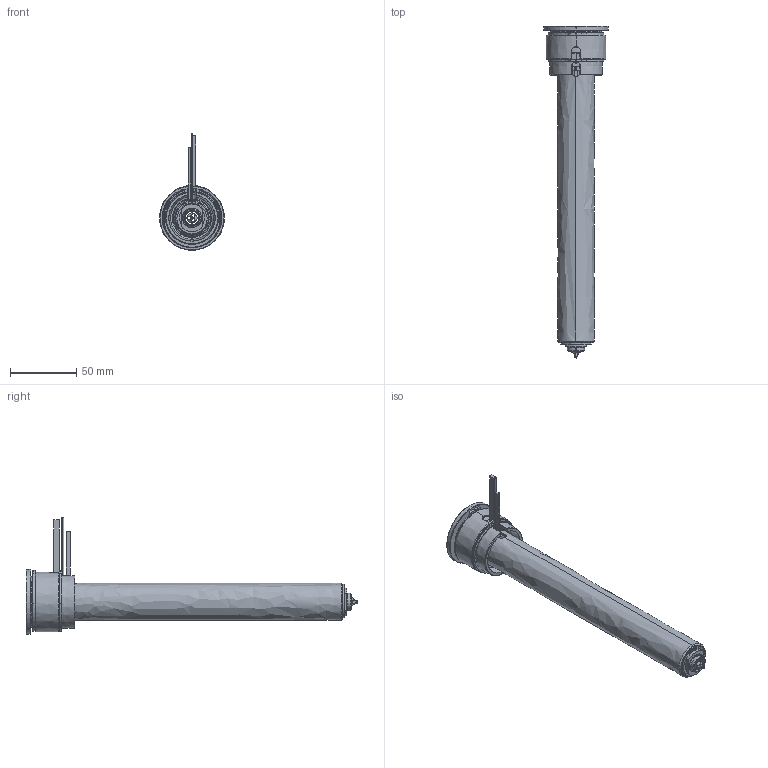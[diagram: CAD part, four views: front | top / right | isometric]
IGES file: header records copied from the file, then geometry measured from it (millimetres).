
Start section: SolidWorks IGES file using analytic representation for surfaces
Global section: file name: C:\Documents and Settings\ws-20\Desktop\TEM\UGEP4505-S-A-1 [Øf-1.31 ØC-10].IGS; native system: SolidWorks 2012; preprocessor: SolidWorks 2012; author: ws-20; date: 120424.091157; units: millimetre
Bounding box: 49 x 250.8 x 88.15 mm (x, y, z)
Surface area: 84634.8 mm2 (no closed solid volume)
Topology: 0 solids, 0 shells, 185 faces, 3507 edges, 3507 vertices
Faces by surface type: revolution 120, bspline 65
